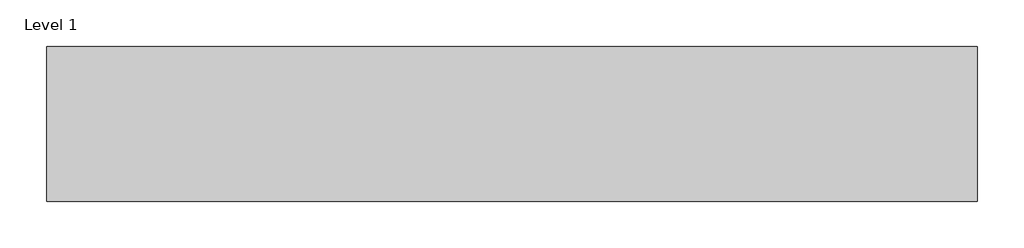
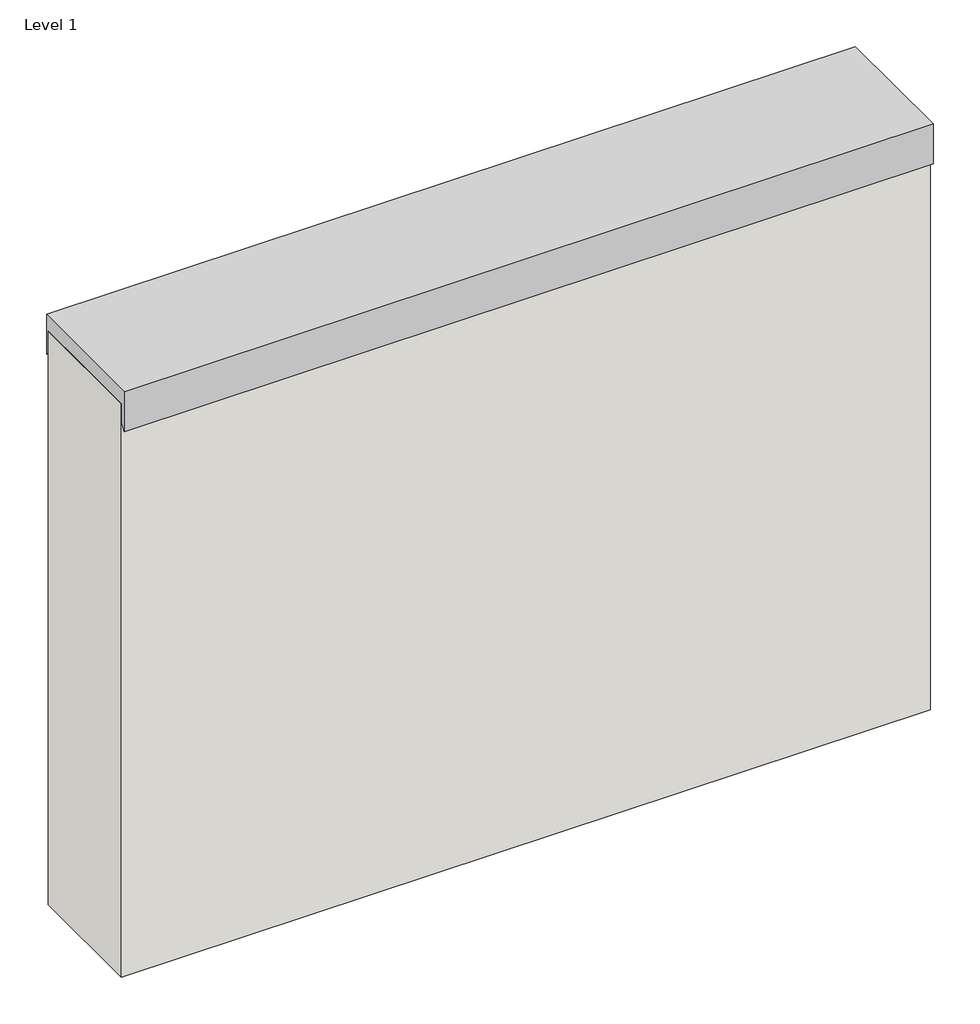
# One storey: 1 proxy, 1 wall.
"""IFC4 building model written with IfcOpenShell, lengths in millimetres."""

from ifc_helpers import new_model, si_unit, frame, origin, place, context, project, spatial, polyline, outline, extrude, faceted_brep, element, save

model = new_model("IFC4")

# Units and contexts
model_context = context("Model", 3, world=origin())
ifc_project = project(units=[si_unit("LENGTHUNIT", "METRE", prefix="MILLI")], contexts=[model_context])

# Site, building, storey
site = spatial("IfcSite", under=ifc_project)
building = spatial("IfcBuilding", under=site)
storey = spatial("IfcBuildingStorey", under=building, Name="Level 1", Elevation=0.0)

# Proxy
placement = place(None, origin())
element("IfcBuildingElementProxy", 1, Name="Fascia-Metal_Era-Perma_Tite_Expansion_Joint_Roof_to_Roof_Version", ObjectType="Fascia-Metal_Era-Perma_Tite_Expansion_Joint_Roof_to_Roof_Version", at=placement, inside=storey, context=model_context, shape_type="SweptSolid", body=[
    extrude(outline(polyline([(129.1781326, 938.2125), (332.3781326, 938.2125), (332.3781326, 874.7125), (327.6156326, 881.0625), (327.6156326, 914.4), (137.1156326, 914.4), (137.1156326, 887.4125), (129.1781326, 874.7125), (129.1781326, 938.2125)])), frame((1983.6943366, 0.0, 0.0), z_axis=(1.0, 0.0, 0.0), x_axis=(0.0, 1.0, 0.0)), (0.0, 0.0, 1.0), 1219.2),
])

# Wall
element("IfcWall", 2, ObjectType="Generic - 8\"", at=placement, inside=storey, context=model_context, shape_type="Brep", body=[
    faceted_brep([(1983.6943366, 137.1156326, 0.0), (3202.8943366, 137.1156326, 0.0), (3202.8943366, 137.1156326, 887.4125), (3202.8943366, 137.1156326, 914.4), (1983.6943366, 137.1156326, 914.4), (1983.6943366, 137.1156326, 887.4125), (3202.8943366, 327.6156326, 0.0), (1983.6943366, 327.6156326, 0.0), (1983.6943366, 327.6156326, 881.0625), (1983.6943366, 327.6156326, 914.4), (3202.8943366, 327.6156326, 914.4), (3202.8943366, 327.6156326, 881.0625)], [[[0, 1, 2, 3, 4, 5]], [[6, 7, 8, 9, 10, 11]], [[1, 0, 7, 6]], [[1, 6, 11, 10, 3, 2]], [[4, 3, 10, 9]], [[4, 9, 8, 7, 0, 5]]]),
])

save(model, "model.ifc")
